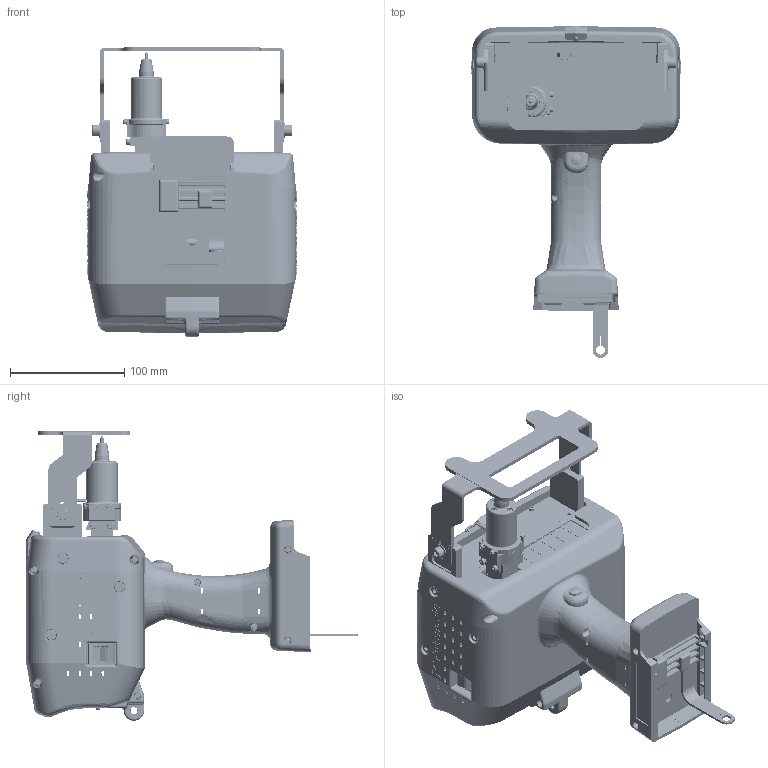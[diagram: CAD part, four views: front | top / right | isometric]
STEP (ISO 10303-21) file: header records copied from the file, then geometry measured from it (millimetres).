
FILE_DESCRIPTION (( 'STEP AP203' ), '1' );
FILE_NAME ('Patmark-plus_AC.STEP', '2022-08-10T05:37:24', ( '' ), ( '' ), 'SwSTEP 2.0', 'SolidWorks 2019', '' );
FILE_SCHEMA (( 'CONFIG_CONTROL_DESIGN' ));
Length unit declared in the file: millimetre
Products named in the file (45): TCQ-G-00001-32 バッテリーキャップ; TCQ-G-00001-31 USB僉儍僢僾_兽菽迺t-1; TCQ-K3-02700G-5 打刻ピン; TCQ-K3-02098G-21 v2 打刻ガイドプレート; SW25; cap25_12; TCQ-K3-02098G-15 v2 僔儍僢僞乕4; 8HD1011-Z ロッカースイッチ; OSW54K3131A 白色LED; TCQ-G-00007-01 v1 ソレノイド取付板; sara25_5; TCQ-K3-02098G-12 v2 僔儍僢僞乕1; 140000480596 ロッカー; TCQ-G-00001-5 v3 ソレノイドカバー; Patmark-plus ソレノイドブロック v1 外観図用; 140000340129 取付枠(樹脂); TCQ-G-00001-4 v2 ピンホルダー; TCQ-G-00001-27 ボタントップ; cap5_12; TCQ-K3-02700G-5A ピンヘッド; TCQ-G-00001-6 スペーサー; TCQ-K3-02700G-5B ピン(超硬); TCQ-K3-02098G-22 v1 すべり止めゴム; XAP-02V-1 プラグハウジング; caps3_8; capw6_10; TCQ-G-00007-03 v1 左カバー; TCQ-K3-02098G-S2-3 v1 アルミフレーム(追加工); TCQ-G-00007-02 v1 右カバー; cap25_6; TCQ-K3-02098G-29 v1 ナットホルダー; TCQ-K3-02098G-14 v2 僔儍僢僞乕3; cap25_10; XARR-02V リセプタクルハウジング; バッテリー端子; TCQ-K3-02098G-13 v2 僔儍僢僞乕2; 140000600181 Žæ•t˜g(SUS”Â); TCQ-K3-02098G-16 v2 僔儍僢僞乕5; Patmark-plus_AC; TCQ-G-00001-30 LED僇僶乕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
Assembly tree (75 placements, depth 4):
  Patmark-plus_AC
    TCQ-K3-02098G-S2-3 v1 アルミフレーム(追加工)
    TCQ-K3-02098G-08 v2 底板
    TCQ-K3-02098G-21 v2 打刻ガイドプレート
    TCQ-K3-02098G-22 v1 すべり止めゴム
    TCQ-K3-02098G-29 v1 ナットホルダー
    cap25_6  x2
    capw6_10  x2
    sara25_5  x5
    XARR-02V リセプタクルハウジング
    XAP-02V-1 プラグハウジング
    TCQ-K3-02098G-12 v2 僔儍僢僞乕1
    TCQ-K3-02098G-13 v2 僔儍僢僞乕2
    TCQ-K3-02098G-14 v2 僔儍僢僞乕3
    TCQ-K3-02098G-15 v2 僔儍僢僞乕4
    TCQ-K3-02098G-16 v2 僔儍僢僞乕5
    TCQ-K3-02098G-17 v2 僔儍僢僞乕6
    Patmark-plus ソレノイドブロック v1 外観図用
      TCQ-G-00001-4 v2 ピンホルダー
      TCQ-G-00001-5 v3 ソレノイドカバー
      TCQ-G-00001-6 スペーサー
      TCQ-G-00007-01 v1 ソレノイド取付板
      TCQ-K3-02700G-5 打刻ピン
        TCQ-K3-02700G-5A ピンヘッド
        TCQ-K3-02700G-5B ピン(超硬)
      TCQ-G-00001-H3  SOL働乕僽儖
      cap25_10
      caps25_5  x4
      cap25_6  x4
      SW25  x4
      caps3_8  x4
    TCQ-G-00001-27 ボタントップ
    TCQ-G-00001-30 LED僇僶乕
    TCQ-G-00001-31 USB僉儍僢僾_兽菽迺t-1
    TCQ-G-00001-32 バッテリーキャップ
    OSW54K3131A 白色LED
    バッテリー端子
    8HD1011-Z ロッカースイッチ
      140000600181 Žæ•t˜g(SUS”Â)
      140000340129 取付枠(樹脂)
      8HD1011-Z ロッカースイッチ
      140000480596 ロッカー
    TCQ-G-00007-02 v1 右カバー
    TCQ-G-00007-03 v1 左カバー
    cap25_12  x8
    cap5_12  x6
Bounding box: 183.6 x 290.9 x 254 mm (x, y, z)
Volume: 754948.7 mm3; surface area: 520703 mm2
Topology: 95 solids, 95 shells, 5667 faces, 14647 edges, 9402 vertices
Faces by surface type: plane 2899, cylinder 1317, cone 851, bspline 484, torus 71, sphere 45
Entity records: 187806 total; most frequent: CARTESIAN_POINT 62408, ORIENTED_EDGE 26198, DIRECTION 23041, EDGE_CURVE 13099, VERTEX_POINT 8486, VECTOR 7791, LINE 7791, AXIS2_PLACEMENT_3D 7625
